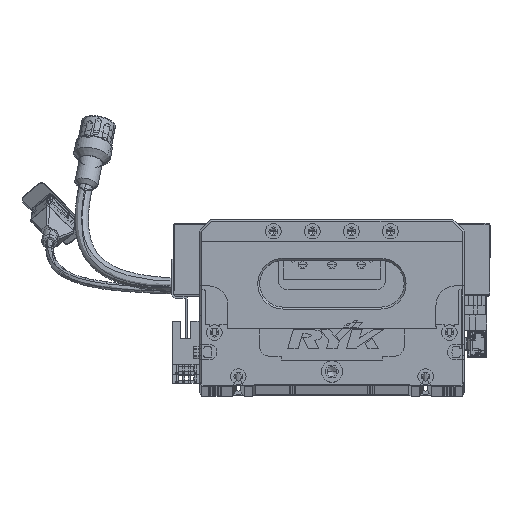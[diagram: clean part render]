
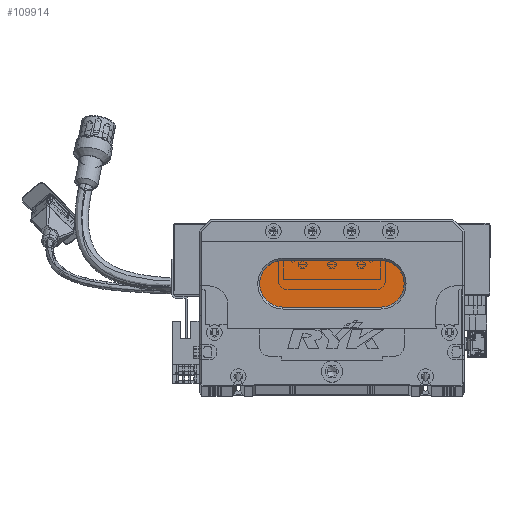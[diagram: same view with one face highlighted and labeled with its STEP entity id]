
A CAD part, top view. The second image highlights one B-rep face of the part: STEP entity #109914.
In plain terms, the highlighted planar face has unit normal (0, 0, 1) as drawn and (0, 0, -1) by its records, which use the part's own axes.
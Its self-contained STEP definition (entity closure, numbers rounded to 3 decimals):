
#1650 = CARTESIAN_POINT ( 'NONE',  ( 43., 52., 13. ) ) ;
#2590 = DIRECTION ( 'NONE',  ( 0., 0., -1. ) ) ;
#3748 = DIRECTION ( 'NONE',  ( 0., 0., -1. ) ) ;
#6080 = PLANE ( 'NONE',  #66995 ) ;
#6236 = VERTEX_POINT ( 'NONE', #118466 ) ;
#10573 = CARTESIAN_POINT ( 'NONE',  ( 93., 52., 13. ) ) ;
#10731 = CIRCLE ( 'NONE', #46625, 12. ) ;
#19938 = EDGE_CURVE ( 'NONE', #123371, #74566, #93153, .T. ) ;
#31144 = AXIS2_PLACEMENT_3D ( 'NONE', #10573, #57347, #67820 ) ;
#38116 = DIRECTION ( 'NONE',  ( -1., 0., 0. ) ) ;
#38232 = VECTOR ( 'NONE', #111887, 1000. ) ;
#45656 = ORIENTED_EDGE ( 'NONE', *, *, #55083, .T. ) ;
#46445 = CARTESIAN_POINT ( 'NONE',  ( 93., 64., 13. ) ) ;
#46625 = AXIS2_PLACEMENT_3D ( 'NONE', #100789, #3748, #101262 ) ;
#47284 = VECTOR ( 'NONE', #74728, 1000. ) ;
#50223 = CARTESIAN_POINT ( 'NONE',  ( 93., 64., 13. ) ) ;
#50490 = DIRECTION ( 'NONE',  ( 0., 0., -1. ) ) ;
#52227 = VERTEX_POINT ( 'NONE', #50223 ) ;
#55083 = EDGE_CURVE ( 'NONE', #79029, #123371, #76335, .T. ) ;
#55843 = CARTESIAN_POINT ( 'NONE',  ( 93., 40., 13. ) ) ;
#57347 = DIRECTION ( 'NONE',  ( 0., 0., -1. ) ) ;
#60416 = EDGE_CURVE ( 'NONE', #52227, #79029, #84967, .T. ) ;
#62787 = EDGE_CURVE ( 'NONE', #6236, #52227, #82636, .T. ) ;
#66995 = AXIS2_PLACEMENT_3D ( 'NONE', #71946, #50490, #38116 ) ;
#67820 = DIRECTION ( 'NONE',  ( -1., 0., 0. ) ) ;
#68896 = EDGE_CURVE ( 'NONE', #74566, #6236, #10731, .T. ) ;
#71946 = CARTESIAN_POINT ( 'NONE',  ( 93., 52., 13. ) ) ;
#74566 = VERTEX_POINT ( 'NONE', #105083 ) ;
#74728 = DIRECTION ( 'NONE',  ( -1., 0., 0. ) ) ;
#76335 = LINE ( 'NONE', #96778, #47284 ) ;
#79029 = VERTEX_POINT ( 'NONE', #55843 ) ;
#82636 = LINE ( 'NONE', #46445, #38232 ) ;
#84967 = CIRCLE ( 'NONE', #31144, 12. ) ;
#92993 = ORIENTED_EDGE ( 'NONE', *, *, #62787, .T. ) ;
#93153 = CIRCLE ( 'NONE', #132571, 12. ) ;
#94159 = CARTESIAN_POINT ( 'NONE',  ( 43., 40., 13. ) ) ;
#96778 = CARTESIAN_POINT ( 'NONE',  ( 93., 40., 13. ) ) ;
#100789 = CARTESIAN_POINT ( 'NONE',  ( 43., 52., 13. ) ) ;
#101262 = DIRECTION ( 'NONE',  ( -1., 0., 0. ) ) ;
#105083 = CARTESIAN_POINT ( 'NONE',  ( 31., 52., 13. ) ) ;
#108866 = FACE_OUTER_BOUND ( 'NONE', #115298, .T. ) ;
#109914 = ADVANCED_FACE ( 'NONE', ( #108866 ), #6080, .T. ) ;
#111887 = DIRECTION ( 'NONE',  ( 1., 0., 0. ) ) ;
#115298 = EDGE_LOOP ( 'NONE', ( #140527, #45656, #120481, #130790, #92993 ) ) ;
#118466 = CARTESIAN_POINT ( 'NONE',  ( 43., 64., 13. ) ) ;
#120481 = ORIENTED_EDGE ( 'NONE', *, *, #19938, .T. ) ;
#123371 = VERTEX_POINT ( 'NONE', #94159 ) ;
#130790 = ORIENTED_EDGE ( 'NONE', *, *, #68896, .T. ) ;
#132538 = DIRECTION ( 'NONE',  ( -1., 0., 0. ) ) ;
#132571 = AXIS2_PLACEMENT_3D ( 'NONE', #1650, #2590, #132538 ) ;
#140527 = ORIENTED_EDGE ( 'NONE', *, *, #60416, .T. ) ;
